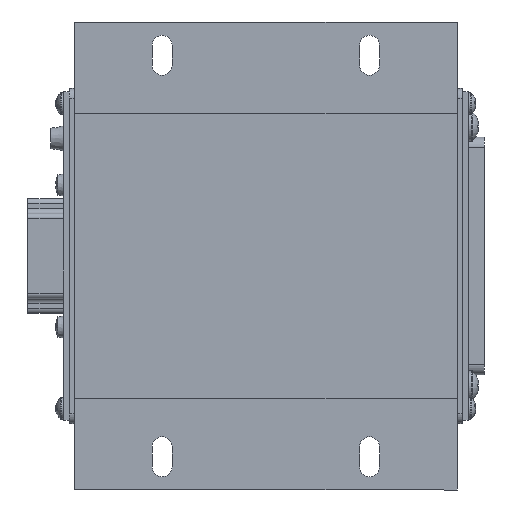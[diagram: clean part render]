
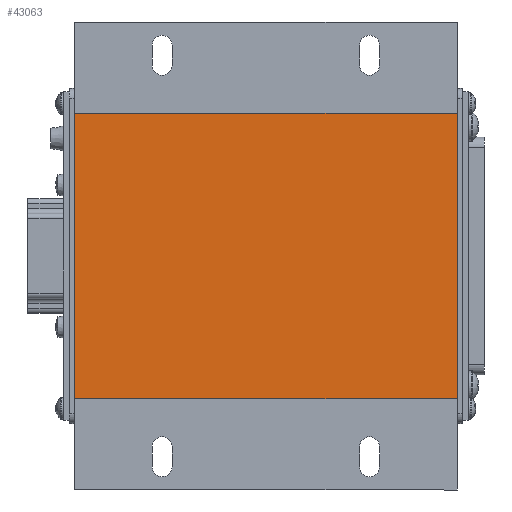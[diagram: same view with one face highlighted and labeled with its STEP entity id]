
A CAD part, front view. The second image highlights one B-rep face of the part: STEP entity #43063.
In plain terms, the highlighted planar face has unit normal (0, -1, 0).
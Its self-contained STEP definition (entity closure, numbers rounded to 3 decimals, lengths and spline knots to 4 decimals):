
#1897=LINE('',#65700,#5563);
#1899=LINE('',#65704,#5565);
#1900=LINE('',#65706,#5566);
#1901=LINE('',#65707,#5567);
#5563=VECTOR('',#51658,4.8);
#5565=VECTOR('',#51662,3.5827);
#5566=VECTOR('',#51663,4.8);
#5567=VECTOR('',#51664,3.5827);
#9459=FACE_OUTER_BOUND('',#13386,.T.);
#13386=EDGE_LOOP('',(#31026,#31027,#31028,#31029));
#18561=VERTEX_POINT('',#65697);
#18562=VERTEX_POINT('',#65699);
#18563=VERTEX_POINT('',#65703);
#18564=VERTEX_POINT('',#65705);
#23251=EDGE_CURVE('',#18562,#18561,#1897,.T.);
#23253=EDGE_CURVE('',#18563,#18561,#1899,.T.);
#23254=EDGE_CURVE('',#18564,#18563,#1900,.T.);
#23255=EDGE_CURVE('',#18562,#18564,#1901,.T.);
#31026=ORIENTED_EDGE('',*,*,#23253,.F.);
#31027=ORIENTED_EDGE('',*,*,#23254,.F.);
#31028=ORIENTED_EDGE('',*,*,#23255,.F.);
#31029=ORIENTED_EDGE('',*,*,#23251,.T.);
#39621=PLANE('',#45601);
#43063=ADVANCED_FACE('',(#9459),#39621,.T.);
#45601=AXIS2_PLACEMENT_3D('',#65702,#51660,#51661);
#51658=DIRECTION('',(-1.,0.,0.));
#51660=DIRECTION('center_axis',(0.,-1.,0.));
#51661=DIRECTION('ref_axis',(1.,0.,0.));
#51662=DIRECTION('',(0.,0.,1.));
#51663=DIRECTION('',(-1.,0.,0.));
#51664=DIRECTION('',(0.,0.,-1.));
#65697=CARTESIAN_POINT('',(-2.355,-0.5185,1.7914));
#65699=CARTESIAN_POINT('',(2.445,-0.5185,1.7914));
#65700=CARTESIAN_POINT('',(0.045,-0.5185,1.7914));
#65702=CARTESIAN_POINT('Origin',(0.045,-0.5185,1.7914));
#65703=CARTESIAN_POINT('',(-2.355,-0.5185,-1.7913));
#65704=CARTESIAN_POINT('',(-2.355,-0.5185,0.8959));
#65705=CARTESIAN_POINT('',(2.445,-0.5185,-1.7913));
#65706=CARTESIAN_POINT('',(0.045,-0.5185,-1.7913));
#65707=CARTESIAN_POINT('',(2.445,-0.5185,0.8959));
